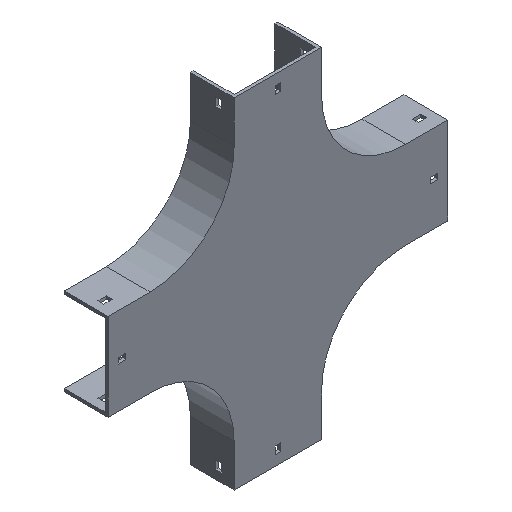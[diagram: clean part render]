
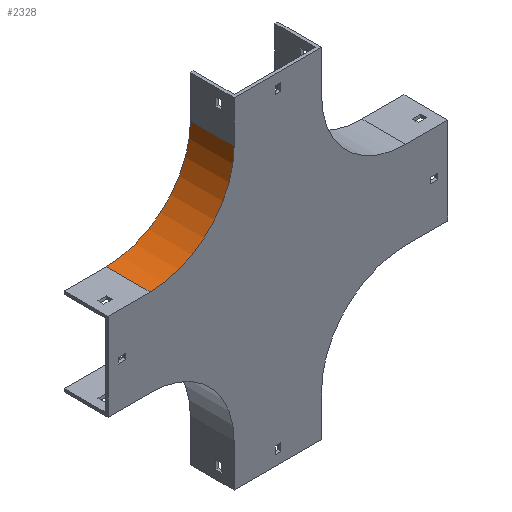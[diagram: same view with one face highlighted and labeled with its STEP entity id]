
A CAD part, isometric view. The second image highlights one B-rep face of the part: STEP entity #2328.
In plain terms, the highlighted cylindrical face has radius 100 mm (diameter 200 mm), a partial arc.
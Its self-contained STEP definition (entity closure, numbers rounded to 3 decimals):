
#92 = DIRECTION ( 'NONE',  ( 0., -1., 0. ) ) ;
#101 = DIRECTION ( 'NONE',  ( 0., -1., 0. ) ) ;
#197 = DIRECTION ( 'NONE',  ( 0., -1., 0. ) ) ;
#240 = CARTESIAN_POINT ( 'NONE',  ( -304., 0., -100. ) ) ;
#405 = DIRECTION ( 'NONE',  ( 0., 0., 1. ) ) ;
#427 = CARTESIAN_POINT ( 'NONE',  ( -304., 52., -100. ) ) ;
#510 = VECTOR ( 'NONE', #101, 1000. ) ;
#587 = CARTESIAN_POINT ( 'NONE',  ( -204., 52., 0. ) ) ;
#666 = EDGE_CURVE ( 'NONE', #2606, #1610, #865, .T. ) ;
#685 = ORIENTED_EDGE ( 'NONE', *, *, #666, .F. ) ;
#865 = LINE ( 'NONE', #2110, #1014 ) ;
#964 = DIRECTION ( 'NONE',  ( 0., 0., 1. ) ) ;
#1014 = VECTOR ( 'NONE', #197, 1000. ) ;
#1017 = EDGE_LOOP ( 'NONE', ( #1132, #685, #2421, #1597 ) ) ;
#1070 = FACE_OUTER_BOUND ( 'NONE', #1017, .T. ) ;
#1071 = EDGE_CURVE ( 'NONE', #1712, #1610, #1334, .T. ) ;
#1101 = DIRECTION ( 'NONE',  ( 0., 0., -1. ) ) ;
#1103 = VERTEX_POINT ( 'NONE', #427 ) ;
#1132 = ORIENTED_EDGE ( 'NONE', *, *, #1071, .T. ) ;
#1184 = CARTESIAN_POINT ( 'NONE',  ( -304., 0., 0. ) ) ;
#1210 = CIRCLE ( 'NONE', #2723, 100. ) ;
#1249 = DIRECTION ( 'NONE',  ( 0., -1., 0. ) ) ;
#1308 = CARTESIAN_POINT ( 'NONE',  ( -204., 0., 0. ) ) ;
#1334 = CIRCLE ( 'NONE', #2387, 100. ) ;
#1346 = AXIS2_PLACEMENT_3D ( 'NONE', #1723, #2132, #1101 ) ;
#1367 = CARTESIAN_POINT ( 'NONE',  ( -304., 52., -100. ) ) ;
#1597 = ORIENTED_EDGE ( 'NONE', *, *, #2150, .T. ) ;
#1610 = VERTEX_POINT ( 'NONE', #1308 ) ;
#1628 = EDGE_CURVE ( 'NONE', #1103, #2606, #1210, .T. ) ;
#1679 = CARTESIAN_POINT ( 'NONE',  ( -304., 52., 0. ) ) ;
#1701 = CYLINDRICAL_SURFACE ( 'NONE', #1346, 100. ) ;
#1712 = VERTEX_POINT ( 'NONE', #240 ) ;
#1723 = CARTESIAN_POINT ( 'NONE',  ( -304., 52., 0. ) ) ;
#2110 = CARTESIAN_POINT ( 'NONE',  ( -204., 52., 0. ) ) ;
#2132 = DIRECTION ( 'NONE',  ( 0., -1., 0. ) ) ;
#2150 = EDGE_CURVE ( 'NONE', #1103, #1712, #2663, .T. ) ;
#2328 = ADVANCED_FACE ( 'NONE', ( #1070 ), #1701, .F. ) ;
#2387 = AXIS2_PLACEMENT_3D ( 'NONE', #1184, #92, #964 ) ;
#2421 = ORIENTED_EDGE ( 'NONE', *, *, #1628, .F. ) ;
#2606 = VERTEX_POINT ( 'NONE', #587 ) ;
#2663 = LINE ( 'NONE', #1367, #510 ) ;
#2723 = AXIS2_PLACEMENT_3D ( 'NONE', #1679, #1249, #405 ) ;
